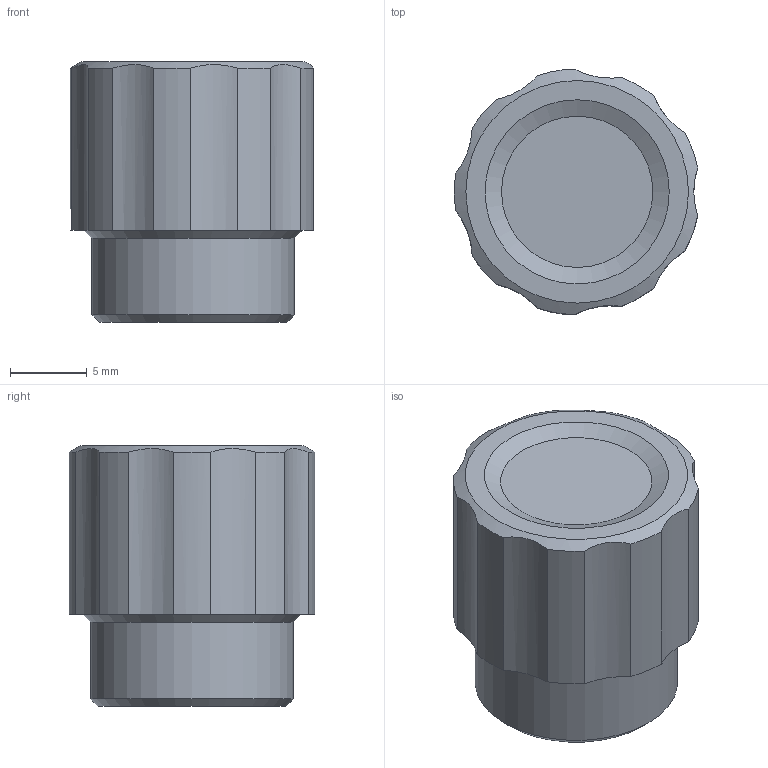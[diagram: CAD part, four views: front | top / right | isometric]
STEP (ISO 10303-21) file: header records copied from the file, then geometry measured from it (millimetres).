
FILE_DESCRIPTION(/* description */ (''),/* implementation_level */ '2;1');
FILE_NAME(/* name */ '16x11 knob v5.step',/* time_stamp */ '2024-08-02T08:16:51-07:00',/* author */ (''),/* organization */ (''),/* preprocessor_version */ 'ST-DEVELOPER v20',/* originating_system */ 'Autodesk Translation Framework v13.14.0.145',/* authorisation */ '');
FILE_SCHEMA (('AUTOMOTIVE_DESIGN { 1 0 10303 214 3 1 1 }'));
Length unit declared in the file: millimetre
Products named in the file (1): 16x11 knob
Bounding box: 15.85 x 16 x 17 mm (x, y, z)
Volume: 2341.3 mm3; surface area: 1421.4 mm2
Topology: 1 solids, 1 shells, 34 faces, 79 edges, 51 vertices
Faces by surface type: cylinder 21, cone 7, plane 6
Full cylindrical faces by diameter (mm): 3.35 x1, 10.05 x1, 13.2 x1
Entity records: 1081 total; most frequent: CARTESIAN_POINT 246, DIRECTION 182, ORIENTED_EDGE 158, EDGE_CURVE 79, AXIS2_PLACEMENT_3D 77, VERTEX_POINT 51, CIRCLE 42, EDGE_LOOP 38
